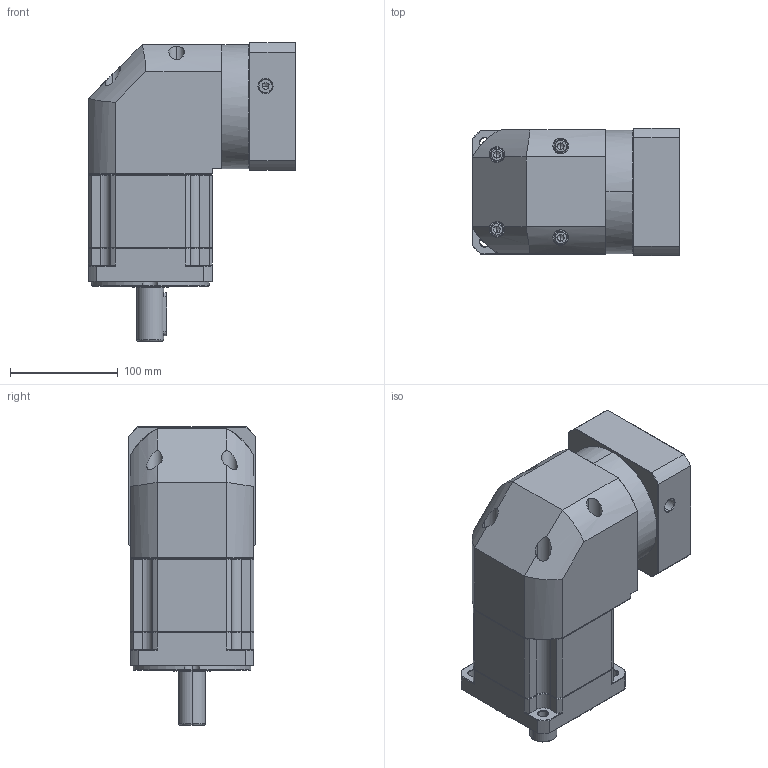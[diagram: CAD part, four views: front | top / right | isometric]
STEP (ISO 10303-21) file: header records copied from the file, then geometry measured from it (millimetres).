
FILE_DESCRIPTION (( 'STEP AP214' ), '1' );
FILE_NAME ('ZBR115A-D25-L2-P2-22-95-115-M8.step', '2023-08-26T12:33:02', ( '' ), ( '' ), 'SwSTEP 2.0', 'SolidWorks 2016', '' );
FILE_SCHEMA (( 'AUTOMOTIVE_DESIGN' ));
Length unit declared in the file: millimetre
Products named in the file (1): ZBR115A-D25-L2-P2-22-95-115-M8
Bounding box: 192.4 x 118 x 276.5 mm (x, y, z)
Volume: 3288819.2 mm3; surface area: 258398.3 mm2
Topology: 6 solids, 6 shells, 2380 faces, 6233 edges, 3957 vertices
Faces by surface type: plane 1139, cylinder 439, bspline 425, cone 369, torus 8
Entity records: 128037 total; most frequent: CARTESIAN_POINT 46915, ORIENTED_EDGE 12406, DIRECTION 9780, EDGE_CURVE 6203, LINE 3990, VECTOR 3990, VERTEX_POINT 3957, AXIS2_PLACEMENT_3D 2895
